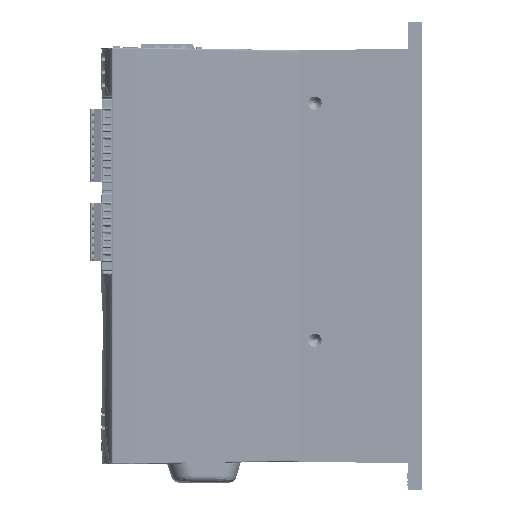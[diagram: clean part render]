
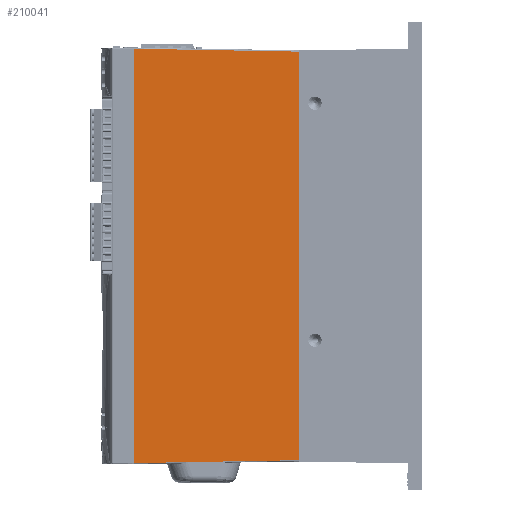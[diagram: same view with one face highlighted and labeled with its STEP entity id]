
A CAD part, left-side view. The second image highlights one B-rep face of the part: STEP entity #210041.
In plain terms, the highlighted planar face has unit normal (-1, -0.018, 0) as drawn and (-1, 0, -0.017) by its records, which use the part's own axes.
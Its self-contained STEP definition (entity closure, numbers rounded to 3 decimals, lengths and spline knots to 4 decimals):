
#12598=LINE('',#294789,#39206);
#12763=LINE('',#295291,#39371);
#12764=LINE('',#295295,#39372);
#12765=LINE('',#295296,#39373);
#39206=VECTOR('',#237925,0.3937);
#39371=VECTOR('',#238326,0.3937);
#39372=VECTOR('',#238331,0.3937);
#39373=VECTOR('',#238332,0.3937);
#64707=PLANE('',#220767);
#73607=FACE_OUTER_BOUND('',#83587,.T.);
#83587=EDGE_LOOP('',(#160154,#160155,#160156,#160157));
#98771=VERTEX_POINT('',#294786);
#98772=VERTEX_POINT('',#294788);
#98931=VERTEX_POINT('',#295290);
#98932=VERTEX_POINT('',#295294);
#125259=EDGE_CURVE('',#98772,#98771,#12598,.T.);
#125493=EDGE_CURVE('',#98772,#98931,#12763,.T.);
#125495=EDGE_CURVE('',#98932,#98771,#12764,.T.);
#125496=EDGE_CURVE('',#98932,#98931,#12765,.T.);
#160154=ORIENTED_EDGE('',*,*,#125493,.F.);
#160155=ORIENTED_EDGE('',*,*,#125259,.T.);
#160156=ORIENTED_EDGE('',*,*,#125495,.F.);
#160157=ORIENTED_EDGE('',*,*,#125496,.T.);
#210041=ADVANCED_FACE('',(#73607),#64707,.T.);
#220767=AXIS2_PLACEMENT_3D('',#295293,#238329,#238330);
#237925=DIRECTION('',(0.,1.,0.));
#238326=DIRECTION('',(0.017,0.017,-1.));
#238329=DIRECTION('center_axis',(-1.,0.,
-0.017));
#238330=DIRECTION('ref_axis',(0.,-1.,0.));
#238331=DIRECTION('',(-0.017,0.017,1.));
#238332=DIRECTION('',(0.,-1.,0.));
#294786=CARTESIAN_POINT('',(-0.0555,7.8305,3.18));
#294788=CARTESIAN_POINT('',(-0.0555,-0.0305,3.18));
#294789=CARTESIAN_POINT('',(-0.0555,7.855,3.18));
#295290=CARTESIAN_POINT('',(-0.001,0.0239,0.06));
#295291=CARTESIAN_POINT('',(0.0004,0.0253,-0.0201));
#295293=CARTESIAN_POINT('Origin',(0.,0.,0.));
#295294=CARTESIAN_POINT('',(-0.001,7.7761,0.06));
#295295=CARTESIAN_POINT('',(0.0012,7.7738,-0.0676));
#295296=CARTESIAN_POINT('',(-0.001,3.9225,0.06));
